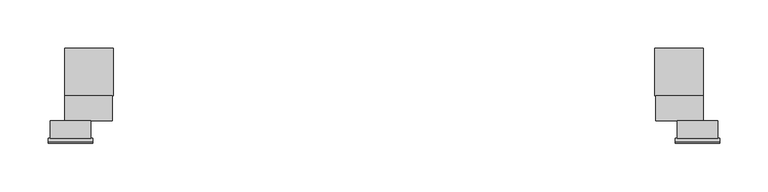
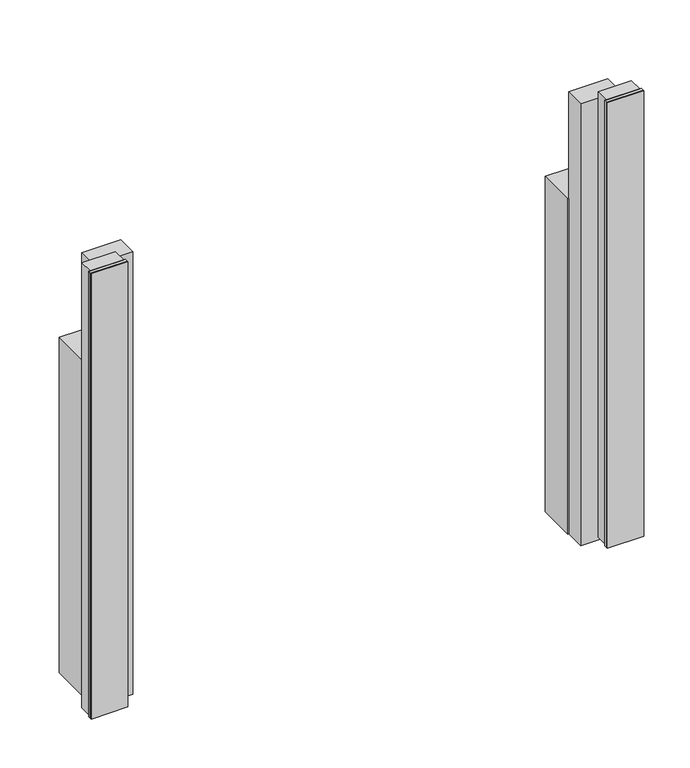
"""IFC4 building model written with IfcOpenShell, lengths in millimetres: proxy geometry, 11515840_USA_EBA7767_EDST-CLST : 29992970_USA_11515840_EBA7767_EDST-CLST."""

from ifc_helpers import new_model, si_unit, frame, origin, origin_with_axes, place, context, project, spatial, polyline, outline, extrude, source, transform, mapped, element, save


def specialty_equipment_3522fc45(model_context):
    return source(origin(), model_context, "Body", "SweptSolid", [
        extrude(outline(polyline([(-301.5, -23.3), (-347.5, -23.3), (-347.5, -22.0), (-301.5, -22.0), (-301.5, -23.3)])), frame((0.0, 0.0, 4.0), z_axis=(0.0, 0.0, 1.0), x_axis=(1.0, 0.0, 0.0)), (0.0, 0.0, 1.0), 592.0),
        extrude(outline(polyline([(347.5, -23.3), (301.5, -23.3), (301.5, -22.0), (347.5, -22.0), (347.5, -23.3)])), frame((0.0, 0.0, 4.0), z_axis=(0.0, 0.0, 1.0), x_axis=(1.0, 0.0, 0.0)), (0.0, 0.0, 1.0), 592.0),
        extrude(outline(polyline([(-345.5, 0.0), (-303.5, 0.0), (-303.5, -18.0), (-345.5, -18.0), (-345.5, 0.0)])), frame((0.0, 0.0, 4.0), z_axis=(0.0, 0.0, 1.0), x_axis=(1.0, 0.0, 0.0)), (0.0, 0.0, 1.0), 592.0),
        extrude(outline(polyline([(303.5, 0.0), (345.5, 0.0), (345.5, -18.0), (303.5, -18.0), (303.5, 0.0)])), frame((0.0, 0.0, 4.0), z_axis=(0.0, 0.0, 1.0), x_axis=(1.0, 0.0, 0.0)), (0.0, 0.0, 1.0), 592.0),
        extrude(outline(polyline([(-347.5, -18.0), (-301.5, -18.0), (-301.5, -22.0), (-347.5, -22.0), (-347.5, -18.0)])), frame((0.0, 0.0, 4.0), z_axis=(0.0, 0.0, 1.0), x_axis=(1.0, 0.0, 0.0)), (0.0, 0.0, 1.0), 592.0),
        extrude(outline(polyline([(301.5, -18.0), (347.5, -18.0), (347.5, -22.0), (301.5, -22.0), (301.5, -18.0)])), frame((0.0, 0.0, 4.0), z_axis=(0.0, 0.0, 1.0), x_axis=(1.0, 0.0, 0.0)), (0.0, 0.0, 1.0), 592.0),
        extrude(outline(polyline([(280.5, 75.0), (330.5, 75.0), (330.5, 26.0), (280.5, 26.0), (280.5, 75.0)])), origin_with_axes(), (0.0, 0.0, 1.0), 446.0),
        extrude(outline(polyline([(-330.5, 75.0), (-280.5, 75.0), (-280.5, 26.0), (-330.5, 26.0), (-330.5, 75.0)])), origin_with_axes(), (0.0, 0.0, 1.0), 446.0),
        extrude(outline(polyline([(281.5, 26.0), (330.5, 26.0), (330.5, 0.0), (281.5, 0.0), (281.5, 26.0)])), origin_with_axes(), (0.0, 0.0, 1.0), 588.0),
        extrude(outline(polyline([(-330.5, 26.0), (-281.5, 26.0), (-281.5, 0.0), (-330.5, 0.0), (-330.5, 26.0)])), origin_with_axes(), (0.0, 0.0, 1.0), 588.0),
    ])


if __name__ == "__main__":
    model = new_model("IFC4")
    model_context = context("Model", 3, world=origin())
    ifc_project = project(units=[si_unit("LENGTHUNIT", "METRE", prefix="MILLI")], contexts=[model_context])
    site = spatial("IfcSite", under=ifc_project)
    building = spatial("IfcBuilding", under=site)
    placement = place(None, origin())
    specialty_equipment_shape = specialty_equipment_3522fc45(model_context)
    element("IfcBuildingElementProxy", 1, Name="11515840_USA_EBA7767_EDST-CLST : 29992970_USA_11515840_EBA7767_EDST-CLST", ObjectType="11515840_USA_EBA7767_EDST-CLST : 29992970_USA_11515840_EBA7767_EDST-CLST", at=placement, inside=building, context=model_context, shape_type="MappedRepresentation", body=[
        mapped(specialty_equipment_shape, transform((0.0, 0.0, 0.0), x_axis=(1.0, 0.0, 0.0), y_axis=(0.0, 1.0, 0.0), z_axis=(0.0, 0.0, 1.0))),
    ])
    save(model, "model.ifc")
